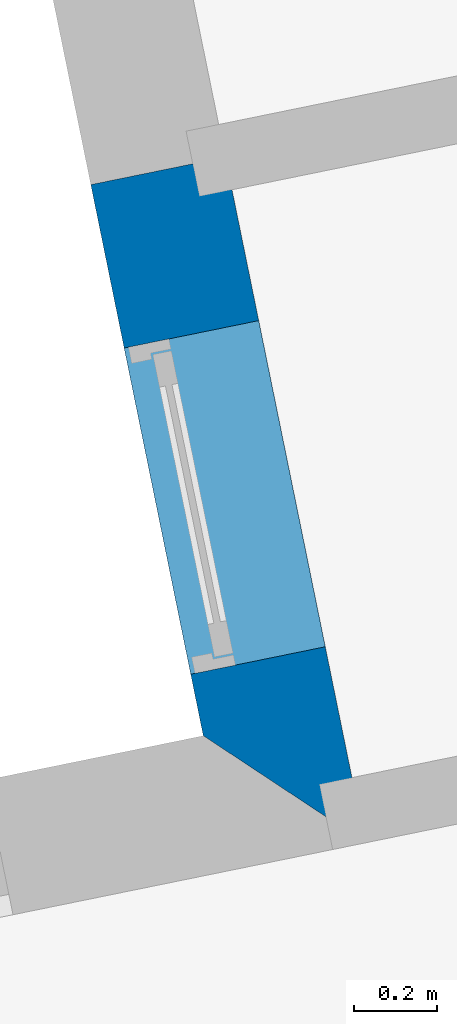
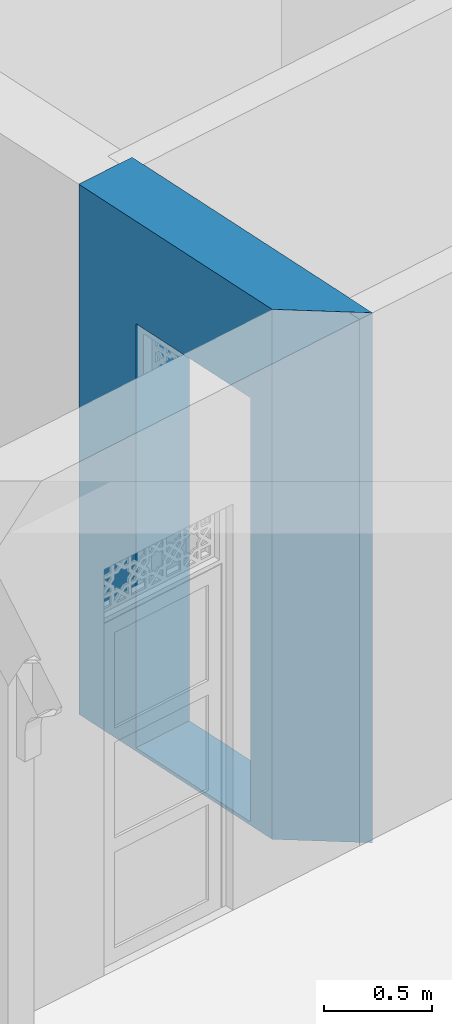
# One storey, part 8 of 11: 1 wall, 1 opening.
"""IFC4 building model written with IfcOpenShell, lengths in metres."""

from ifc_helpers import new_model, si_unit, frame, origin_with_axes, place, context, subcontext, project, spatial, polyline, outline, extrude, material, layer, layer_set, layer_usage, type_object, element, save


model = new_model("IFC4")

# Units and contexts
model_context = context("Model", 3, world=origin_with_axes())
body_context = subcontext(model_context, "Body", "Model", "MODEL_VIEW")
ifc_project = project(units=[si_unit("PLANEANGLEUNIT", "RADIAN"), si_unit("MASSUNIT", "GRAM", prefix="KILO"), si_unit("FORCEUNIT", "NEWTON", prefix="KILO"), si_unit("LENGTHUNIT", "METRE"), si_unit("AREAUNIT", "SQUARE_METRE"), si_unit("VOLUMEUNIT", "CUBIC_METRE")], contexts=[model_context, model_context])

# Site, building, storey
site_placement = place(None, origin_with_axes())
site = spatial("IfcSite", under=ifc_project, at=site_placement, Name="Site plot-7", CompositionType="ELEMENT")
building_placement = place(None, origin_with_axes())
building = spatial("IfcBuilding", under=site, at=building_placement, Name="Building plot-7", CompositionType="ELEMENT")
storey_placement = place(None, origin_with_axes())
storey = spatial("IfcBuildingStorey", under=building, at=storey_placement, Name="plot-7 0", CompositionType="ELEMENT", Elevation=0.0)

# Wall, opening
ifc_material = material(Name="Masonry")
ifc_layer = layer(ifc_material, 0.33, ventilated=False)
ifc_layer_set = layer_set([ifc_layer], Name="exterior_0.08_0.25")
ifc_layer_usage = layer_usage(ifc_layer_set, "AXIS2", "POSITIVE", -0.25)
wall_type = type_object("IfcWallType", Name="exterior_0.08_0.25", PredefinedType="SOLIDWALL", material=ifc_layer_set)
wall_placement = place(storey_placement, frame((-3.81479267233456, 10.4163486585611, 0.0), z_axis=(0.0, 0.0, 1.0), x_axis=(0.199943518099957, -0.979807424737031, 0.0)))
wall = element("IfcWall", 1, at=wall_placement, inside=storey, type_object=wall_type, material=ifc_layer_usage, Name="exterior", context=body_context, shape_type="SweptSolid", body=[
    extrude(outline(polyline([(2.35824976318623e-16, 0.0800000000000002), (-1.82228109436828e-15, -0.25), (1.3518541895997, -0.249999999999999), (1.6818541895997, 0.0799999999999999), (2.35824976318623e-16, 0.0800000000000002)])), origin_with_axes(), (0.0, 0.0, 1.0), 3.0),
])
opening_placement = place(wall_placement, frame((0.400927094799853, 0.0, 0.02)))
element("IfcOpeningElement", 2, at=opening_placement, cuts=wall, Name="My Opening", ObjectType="Opening", context=body_context, shape_type="SweptSolid", body=[
    extrude(outline(polyline([(0.0, -0.27), (0.799999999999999, -0.269999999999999), (0.8, 1.1), (7.21644966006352e-16, 1.1), (0.0, -0.27)])), origin_with_axes(), (0.0, 0.0, 1.0), 2.4),
])

save(model, "model.ifc")
